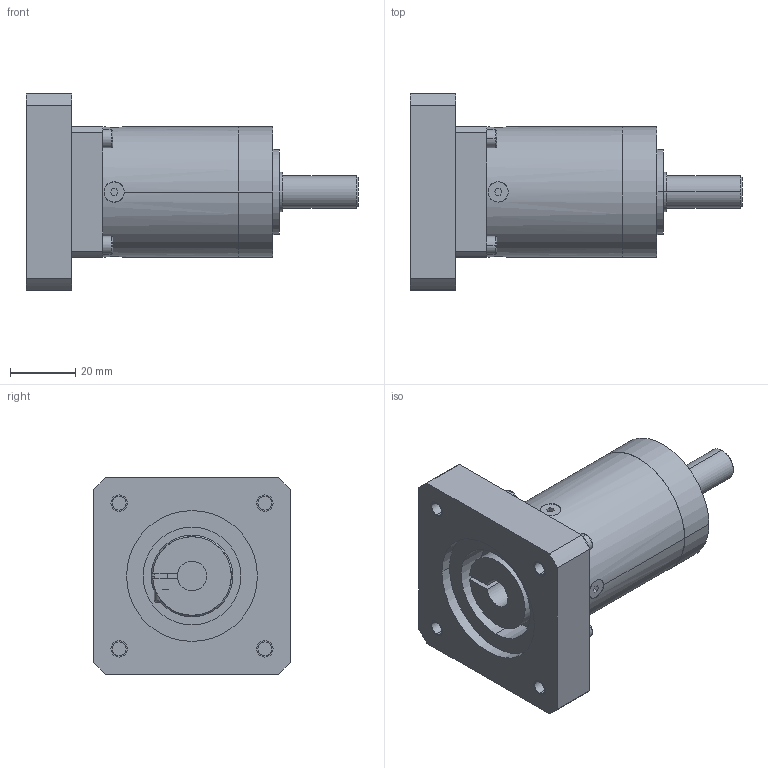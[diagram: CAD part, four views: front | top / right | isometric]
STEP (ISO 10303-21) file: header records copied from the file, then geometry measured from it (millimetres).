
FILE_DESCRIPTION((''),'2;1');
FILE_NAME('MB_PLE_MASTER','2019-07-26T',('agw'),(''),'CREO PARAMETRIC BY PTC INC, 2015290','CREO PARAMETRIC BY PTC INC, 2015290','');
FILE_SCHEMA(('AUTOMOTIVE_DESIGN { 1 0 10303 214 1 1 1 1 }'));
Length unit declared in the file: millimetre
Products named in the file (1): MB_PLE_MASTER
Bounding box: 101.5 x 60 x 60 mm (x, y, z)
Volume: 123932.3 mm3; surface area: 25057 mm2
Topology: 1 solids, 9 shells, 232 faces, 544 edges, 352 vertices
Faces by surface type: plane 127, cylinder 91, torus 12, cone 2
Entity records: 7935 total; most frequent: CARTESIAN_POINT 1308, DIRECTION 1205, ORIENTED_EDGE 1056, EDGE_CURVE 544, AXIS2_PLACEMENT_3D 446, VERTEX_POINT 352, VECTOR 313, LINE 313
